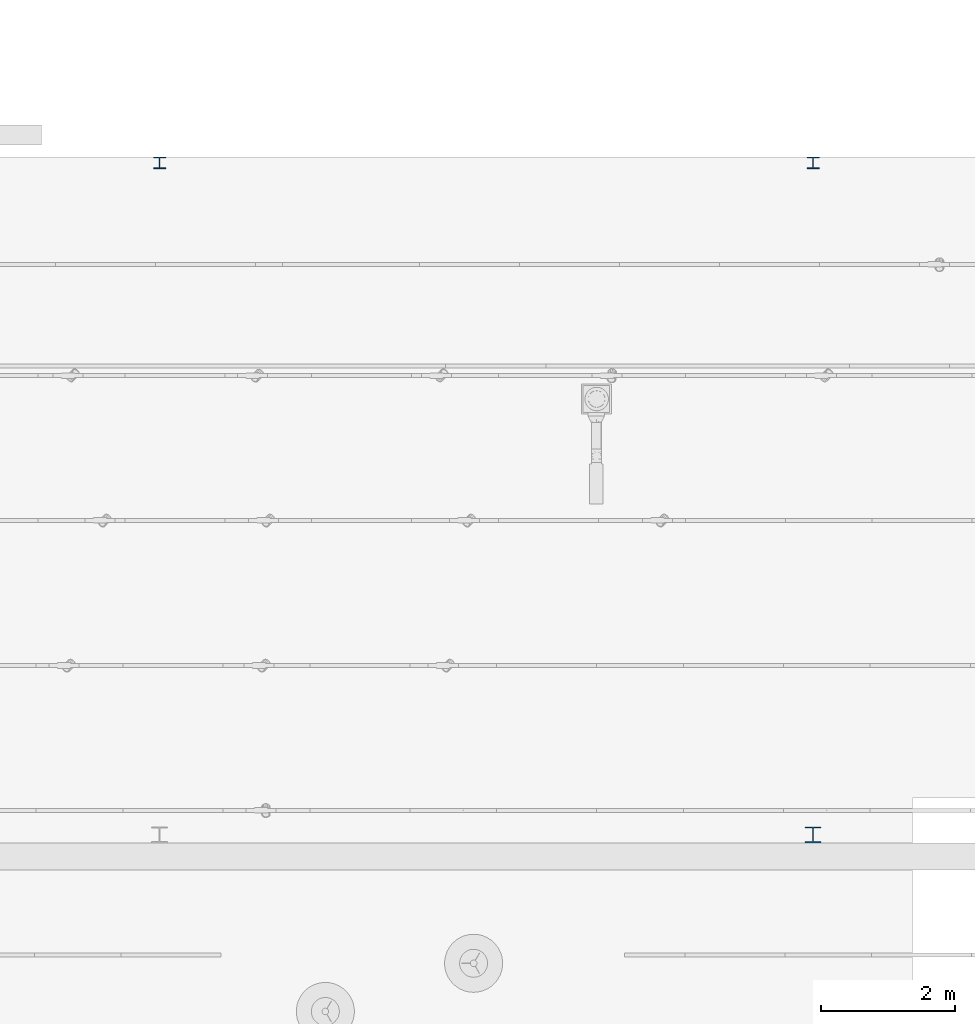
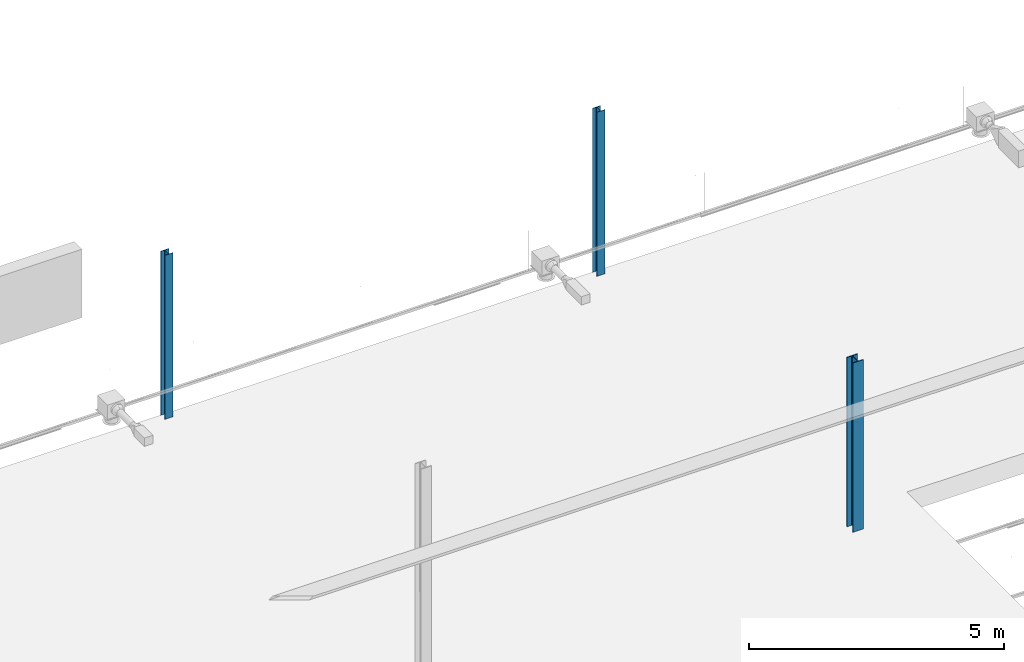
# One storey, part 3 of 290: 3 columns.
"""IFC2X3 building model written with IfcOpenShell, lengths in metres."""

from ifc_helpers import new_model, entity, si_unit, converted_unit, derived_unit, direction, frame, frame_2d, origin, place, context, subcontext, project, spatial, polyline, circle_curve, parameter, trimmed, segment, composite_curve, outline, extrude, source, transform, mapped, material, type_object, type_shapes, element, save


model = new_model("IFC2X3")

# Units and contexts
model_context = context("Model", 3, precision=1e-05, world=origin(), true_north=direction((6.12303176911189e-17, 1.0)))
body_context = subcontext(model_context, "Body", "Model", "MODEL_VIEW")
ifc_project = project(units=[si_unit("LENGTHUNIT", "METRE"), si_unit("AREAUNIT", "SQUARE_METRE"), si_unit("VOLUMEUNIT", "CUBIC_METRE"), converted_unit("PLANEANGLEUNIT", "DEGREE", entity("IfcRatioMeasure", 0.0174532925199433), si_unit("PLANEANGLEUNIT", "RADIAN"), dimensions=[0, 0, 0, 0, 0, 0, 0]), si_unit("MASSUNIT", "GRAM", prefix="KILO"), derived_unit("MASSDENSITYUNIT", [(si_unit("MASSUNIT", "GRAM", prefix="KILO"), 1), (si_unit("LENGTHUNIT", "METRE"), -3)]), derived_unit("MOMENTOFINERTIAUNIT", [(si_unit("LENGTHUNIT", "METRE"), 4)]), si_unit("TIMEUNIT", "SECOND"), si_unit("FREQUENCYUNIT", "HERTZ"), si_unit("THERMODYNAMICTEMPERATUREUNIT", "DEGREE_CELSIUS"), derived_unit("THERMALTRANSMITTANCEUNIT", [(si_unit("MASSUNIT", "GRAM", prefix="KILO"), 1), (si_unit("THERMODYNAMICTEMPERATUREUNIT", "KELVIN"), -1), (si_unit("TIMEUNIT", "SECOND"), -3)]), derived_unit("VOLUMETRICFLOWRATEUNIT", [(si_unit("LENGTHUNIT", "METRE"), 3), (si_unit("TIMEUNIT", "SECOND"), -1)]), si_unit("ELECTRICCURRENTUNIT", "AMPERE"), si_unit("ELECTRICVOLTAGEUNIT", "VOLT"), si_unit("POWERUNIT", "WATT"), si_unit("FORCEUNIT", "NEWTON", prefix="KILO"), si_unit("ILLUMINANCEUNIT", "LUX"), si_unit("LUMINOUSFLUXUNIT", "LUMEN"), si_unit("LUMINOUSINTENSITYUNIT", "CANDELA"), derived_unit("USERDEFINED", [(si_unit("MASSUNIT", "GRAM", prefix="KILO"), -1), (si_unit("LENGTHUNIT", "METRE"), -2), (si_unit("TIMEUNIT", "SECOND"), 3), (si_unit("LUMINOUSFLUXUNIT", "LUMEN"), 1)]), derived_unit("LINEARVELOCITYUNIT", [(si_unit("LENGTHUNIT", "METRE"), 1), (si_unit("TIMEUNIT", "SECOND"), -1)]), si_unit("PRESSUREUNIT", "PASCAL"), derived_unit("USERDEFINED", [(si_unit("LENGTHUNIT", "METRE"), -2), (si_unit("MASSUNIT", "GRAM", prefix="KILO"), 1), (si_unit("TIMEUNIT", "SECOND"), -2)]), derived_unit("LINEARFORCEUNIT", [(si_unit("MASSUNIT", "GRAM", prefix="KILO"), 1), (si_unit("LENGTHUNIT", "METRE"), 1), (si_unit("TIMEUNIT", "SECOND"), -2), (si_unit("LENGTHUNIT", "METRE"), -1)]), derived_unit("PLANARFORCEUNIT", [(si_unit("MASSUNIT", "GRAM", prefix="KILO"), 1), (si_unit("LENGTHUNIT", "METRE"), 1), (si_unit("TIMEUNIT", "SECOND"), -2), (si_unit("LENGTHUNIT", "METRE"), -2)])], contexts=[model_context])

# Site, building, storey
site_placement = place(None, origin())
site = spatial("IfcSite", under=ifc_project, at=site_placement, Name="Default", CompositionType="ELEMENT")
building_placement = place(site_placement, origin())
building = spatial("IfcBuilding", under=site, at=building_placement, CompositionType="ELEMENT")
storey_placement = place(building_placement, frame((0.0, 0.0, 4.0)))
storey = spatial("IfcBuildingStorey", under=building, at=storey_placement, Name="01_OG", CompositionType="ELEMENT", Elevation=4.0)

# Columns
ifc_material = material(Name="Metall - Baustahl S235")
column_type_1 = type_object("IfcColumnType", Name="HEB Stütze:HEB 240", PredefinedType="COLUMN", material=ifc_material)
shared_shape_1 = source(origin(), body_context, "Body", "SweptSolid", [
    extrude(outline(composite_curve([segment(polyline([(0.103000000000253, -0.119999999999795), (0.120000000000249, -0.119999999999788)]), True, "CONTINUOUS"), segment(polyline([(0.120000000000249, -0.11999999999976), (0.11999999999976, 0.120000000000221)]), True, "CONTINUOUS"), segment(polyline([(0.11999999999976, 0.120000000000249), (0.102999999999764, 0.120000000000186)]), True, "CONTINUOUS"), segment(polyline([(0.102999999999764, 0.120000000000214), (0.102999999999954, 0.0268000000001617)]), True, "CONTINUOUS"), segment(trimmed(circle_curve(frame_2d((0.0811999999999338, 0.0268000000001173), x_axis=(1.0, 0.0)), 0.0218000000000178), [parameter(270.000000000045)], [parameter(0.0)], True, "PARAMETER"), False, "CONTINUOUS"), segment(polyline([(0.0811999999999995, 0.00500000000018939), (-0.0812000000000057, 0.00499999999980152)]), True, "CONTINUOUS"), segment(trimmed(circle_curve(frame_2d((-0.0812000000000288, 0.0267999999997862), x_axis=(0.0, -1.0)), 0.0218000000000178), [parameter(270.000000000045)], [parameter(0.0)], True, "PARAMETER"), False, "CONTINUOUS"), segment(polyline([(-0.103000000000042, 0.0267999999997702), (-0.103000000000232, 0.119999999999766)]), True, "CONTINUOUS"), segment(polyline([(-0.103000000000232, 0.119999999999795), (-0.120000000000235, 0.119999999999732)]), True, "CONTINUOUS"), segment(polyline([(-0.120000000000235, 0.11999999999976), (-0.119999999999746, -0.120000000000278)]), True, "CONTINUOUS"), segment(polyline([(-0.119999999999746, -0.120000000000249), (-0.102999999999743, -0.120000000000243)]), True, "CONTINUOUS"), segment(polyline([(-0.102999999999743, -0.120000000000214), (-0.102999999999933, -0.026800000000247)]), True, "CONTINUOUS"), segment(trimmed(circle_curve(frame_2d((-0.0811999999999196, -0.0268000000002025), x_axis=(-1.0, 0.0)), 0.0218000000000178), [parameter(270.000000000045)], [parameter(0.0)], True, "PARAMETER"), False, "CONTINUOUS"), segment(polyline([(-0.0811999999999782, -0.00500000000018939), (0.0812000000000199, -0.00499999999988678)]), True, "CONTINUOUS"), segment(trimmed(circle_curve(frame_2d((0.081200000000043, -0.0267999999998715), x_axis=(0.0, 1.0)), 0.0218000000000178), [parameter(270.000000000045)], [parameter(0.0)], True, "PARAMETER"), False, "CONTINUOUS"), segment(polyline([(0.103000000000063, -0.0267999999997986), (0.103000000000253, -0.119999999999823)]), True, "CONTINUOUS")], self_intersect=False)), frame((-237.147611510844, 35.408088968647, 4.48), z_axis=(0.0, 0.0, 1.0), x_axis=(0.0, -1.0, 0.0)), (0.0, 0.0, 1.0), 4.057),
])
type_shapes(column_type_1, [shared_shape_1])
column_placement = place(storey_placement, frame((0.0, 0.0, -4.0)))
element("IfcColumn", 1, at=column_placement, inside=storey, type_object=column_type_1, material=ifc_material, Name="HEB Stütze:HEB 240", ObjectType="HEB Stütze:HEB 240", context=body_context, shape_type="MappedRepresentation", body=[
    mapped(shared_shape_1, transform((0.0, 0.0, 0.0), scale=1.0)),
])
column_type_2 = type_object("IfcColumnType", Name="HEA Stütze:HEA 180", PredefinedType="COLUMN", material=ifc_material)
shared_shape_2 = source(origin(), body_context, "Body", "SweptSolid", [
    extrude(outline(composite_curve([segment(polyline([(0.076, -0.09), (0.0855, -0.09)]), True, "CONTINUOUS"), segment(polyline([(0.0855, -0.09), (0.0855, 0.09)]), True, "CONTINUOUS"), segment(polyline([(0.0855, 0.09), (0.076, 0.09)]), True, "CONTINUOUS"), segment(polyline([(0.076, 0.09), (0.076, 0.018)]), True, "CONTINUOUS"), segment(trimmed(circle_curve(frame_2d((0.061, 0.018), x_axis=(1.0, 0.0)), 0.015), [parameter(269.999999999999)], [parameter(0.0)], True, "PARAMETER"), False, "CONTINUOUS"), segment(polyline([(0.061, 0.003), (-0.061, 0.003)]), True, "CONTINUOUS"), segment(trimmed(circle_curve(frame_2d((-0.061, 0.018), x_axis=(0.0, -1.0)), 0.015), [parameter(270.0)], [parameter(0.0)], True, "PARAMETER"), False, "CONTINUOUS"), segment(polyline([(-0.076, 0.018), (-0.076, 0.09)]), True, "CONTINUOUS"), segment(polyline([(-0.076, 0.09), (-0.0855, 0.09)]), True, "CONTINUOUS"), segment(polyline([(-0.0855, 0.09), (-0.0855, -0.09)]), True, "CONTINUOUS"), segment(polyline([(-0.0855, -0.09), (-0.076, -0.09)]), True, "CONTINUOUS"), segment(polyline([(-0.076, -0.09), (-0.076, -0.018)]), True, "CONTINUOUS"), segment(trimmed(circle_curve(frame_2d((-0.061, -0.018), x_axis=(-1.0, 0.0)), 0.015), [parameter(269.999999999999)], [parameter(0.0)], True, "PARAMETER"), False, "CONTINUOUS"), segment(polyline([(-0.061, -0.00299999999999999), (0.061, -0.00299999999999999)]), True, "CONTINUOUS"), segment(trimmed(circle_curve(frame_2d((0.0610000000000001, -0.018), x_axis=(0.0, 1.0)), 0.0149999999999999), [parameter(269.999999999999)], [parameter(0.0)], True, "PARAMETER"), False, "CONTINUOUS"), segment(polyline([(0.076, -0.018), (0.076, -0.09)]), True, "CONTINUOUS")], self_intersect=False)), frame((0.0, 0.0, 4.48), z_axis=(0.0, 0.0, 1.0), x_axis=(0.0, -1.0, 0.0)), (0.0, 0.0, 1.0), 3.93),
])
type_shapes(column_type_2, [shared_shape_2])
for number, where in (
    (2, (-237.147611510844, 45.472588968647, -4.0)),
    (3, (-246.935111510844, 45.4725889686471, -4.0)),
):
    element("IfcColumn", number, at=place(storey_placement, frame(where)), inside=storey, type_object=column_type_2, material=ifc_material, Name="HEA Stütze:HEA 180", ObjectType="HEA Stütze:HEA 180", context=body_context, shape_type="MappedRepresentation", body=[
        mapped(shared_shape_2, transform((0.0, 0.0, 0.0), scale=1.0)),
    ])

save(model, "model.ifc")
